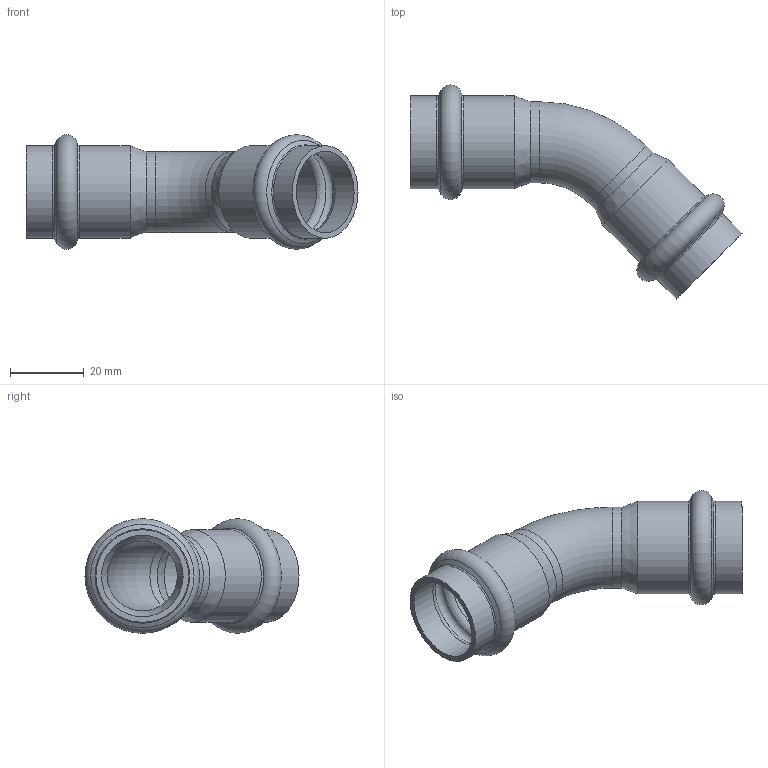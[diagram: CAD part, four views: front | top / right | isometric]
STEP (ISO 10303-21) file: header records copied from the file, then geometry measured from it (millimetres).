
FILE_DESCRIPTION((''),'2;1');
FILE_NAME('G:\Nirosan-Schmiedefeld\Technics\CAD\Bauteile VA\022\6904122(1).stp','2011-09-14T15:09:09',('herberg'),(''),'Autodesk Inventor 2009','Autodesk Inventor 2009','');
FILE_SCHEMA(('AUTOMOTIVE_DESIGN { 1 0 10303 214 1 1 1 1 }'));
Length unit declared in the file: millimetre
Products named in the file (1): 6904122(1)
Bounding box: 90.08 x 58.07 x 31.1 mm (x, y, z)
Volume: 10961 mm3; surface area: 14837.4 mm2
Topology: 1 solids, 1 shells, 36 faces, 77 edges, 43 vertices
Faces by surface type: cylinder 12, bspline 8, cone 8, torus 6, plane 2
Full cylindrical faces by diameter (mm): 19 x2, 22 x2, 22.15 x4, 25.15 x4
Entity records: 1218 total; most frequent: CARTESIAN_POINT 605, DIRECTION 130, ORIENTED_EDGE 72, EDGE_LOOP 72, AXIS2_PLACEMENT_3D 65, VERTEX_POINT 36, CIRCLE 36, EDGE_CURVE 36
